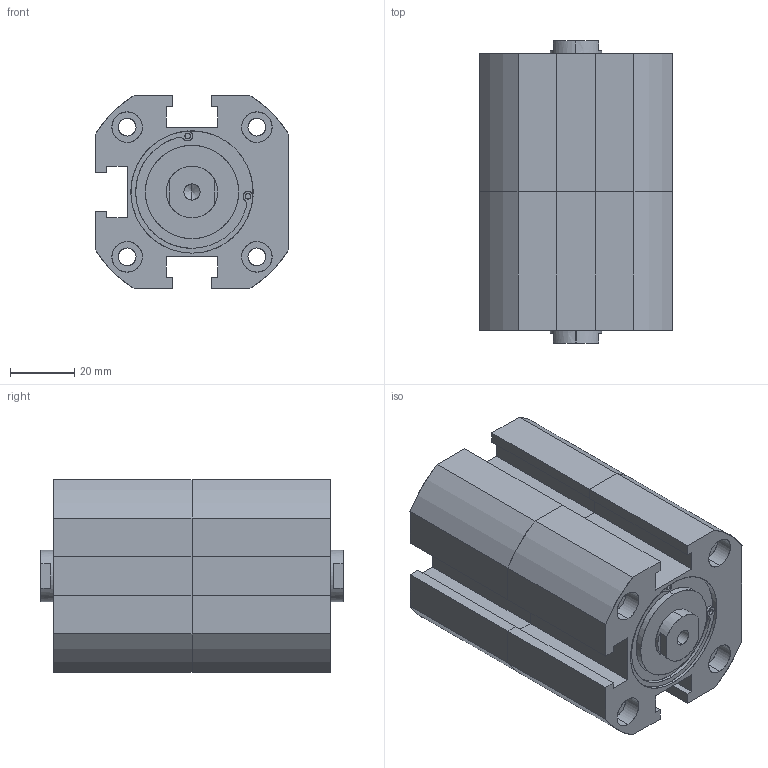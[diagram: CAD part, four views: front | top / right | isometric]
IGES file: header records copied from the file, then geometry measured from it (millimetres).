
Start section: SolidWorks IGES file using analytic representation for surfaces
Global section: file name: C:\Users\Toshiba\Desktop\XGD7-40-10-10.IGS; native system: SolidWorks 2014; preprocessor: SolidWorks 2014; author: Toshiba; date: 160805.094404; units: millimetre
Bounding box: 60 x 94 x 60 mm (x, y, z)
Surface area: 46778.3 mm2 (no closed solid volume)
Topology: 0 solids, 0 shells, 228 faces, 4028 edges, 4016 vertices
Faces by surface type: revolution 128, bspline 100
